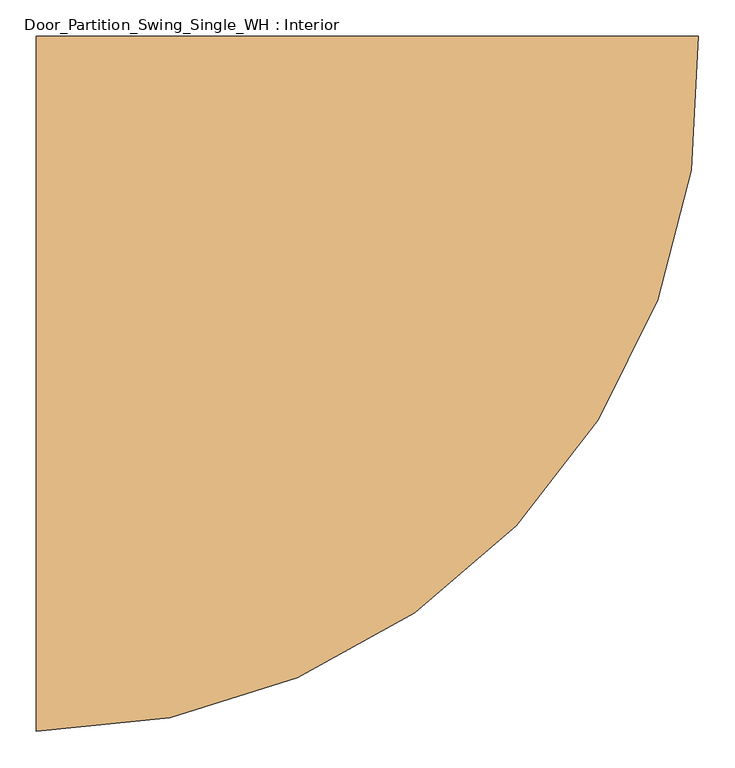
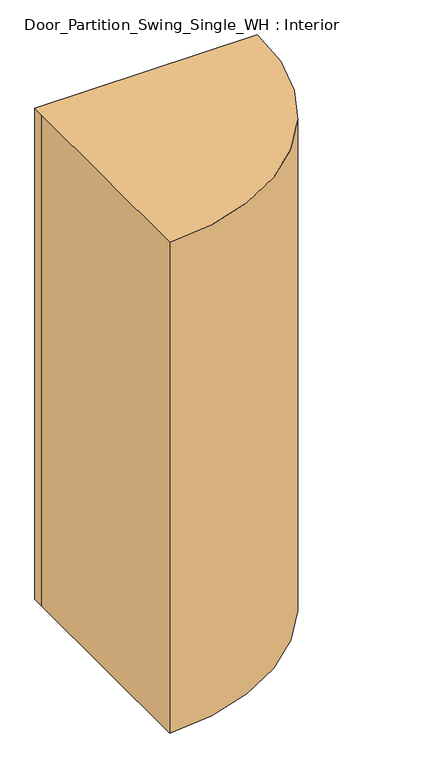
"""IFC4 building model written with IfcOpenShell, lengths in millimetres: door geometry, Door_Partition_Swing_Single_WH : Interior."""

from ifc_helpers import new_model, si_unit, point, frame_2d, origin, origin_with_axes, place, context, project, spatial, polyline, circle_curve, trimmed, segment, composite_curve, outline, extrude, source, transform, mapped, element, save


def door_partition_swing_single_wh_interior_d8258ed9(model_context):
    return source(origin(), model_context, "Body", "SweptSolid", [
        extrude(outline(composite_curve([segment(polyline([(-438.8346798, -57.15), (474.4842992, -57.15)]), True, "CONTINUOUS"), segment(trimmed(circle_curve(frame_2d((-438.8346798, -101.6)), 914.4), [point((474.4842992, -57.15))], [point((-438.8346798, -1016.0))], False, "CARTESIAN"), True, "CONTINUOUS"), segment(polyline([(-438.8346798, -1016.0), (-438.8346798, -101.6), (-438.8346798, -57.15)]), True, "CONTINUOUS")], self_intersect=False)), origin_with_axes(), (0.0, 0.0, 1.0), 2133.6),
    ])


if __name__ == "__main__":
    model = new_model("IFC4")
    model_context = context("Model", 3, world=origin())
    ifc_project = project(units=[si_unit("LENGTHUNIT", "METRE", prefix="MILLI")], contexts=[model_context])
    site = spatial("IfcSite", under=ifc_project)
    building = spatial("IfcBuilding", under=site)
    placement = place(None, origin())
    door_partition_swing_single_wh_interior_shape = door_partition_swing_single_wh_interior_d8258ed9(model_context)
    element("IfcDoor", 1, ObjectType="Door_Partition_Swing_Single_WH : Interior", at=placement, inside=building, context=model_context, shape_type="MappedRepresentation", body=[
        mapped(door_partition_swing_single_wh_interior_shape, transform((0.0, 0.0, 0.0), x_axis=(1.0, 0.0, 0.0), y_axis=(0.0, 1.0, 0.0), z_axis=(0.0, 0.0, 1.0))),
    ])
    save(model, "model.ifc")
